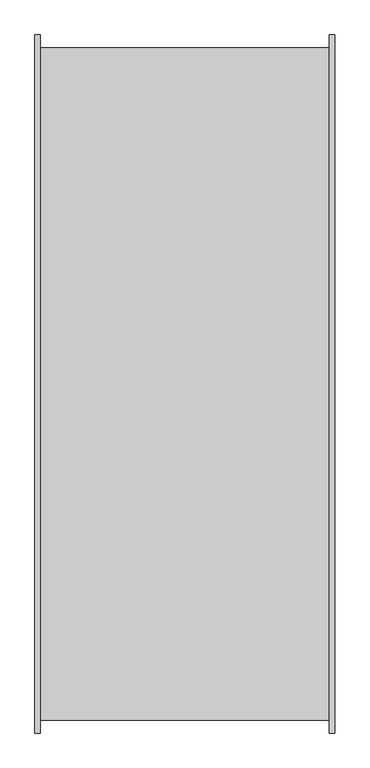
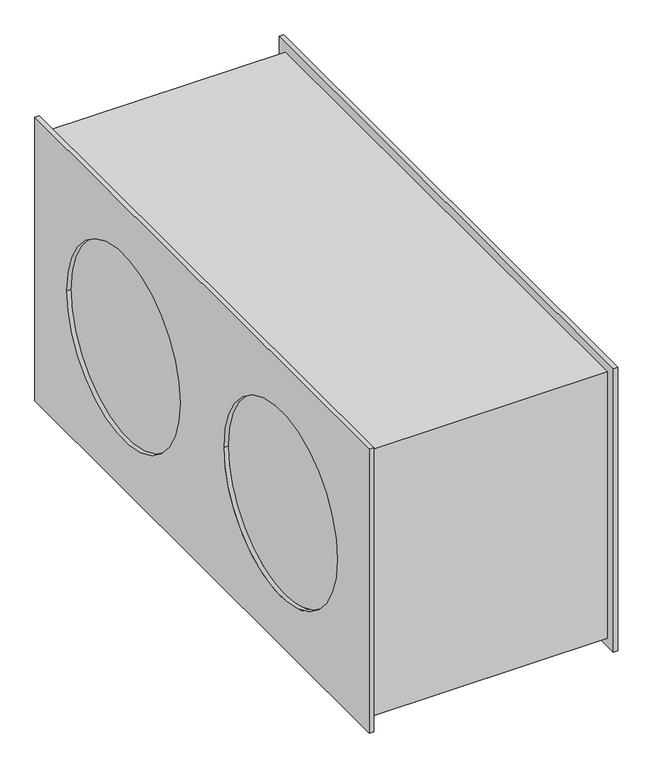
"""IFC4 building model written with IfcOpenShell, lengths in millimetres: unitary equipment geometry, VE-Wentylator-ParaForma-Harmann-JETTEC_REC-Nawiewny : 100/50/9900S."""

from ifc_helpers import new_model, si_unit, frame, origin, place, context, project, spatial, polyline, circle_curve, source, transform, mapped, element, save
from ifc_brep_helpers import plane_surface, revolved_surface, advanced_brep


def unitary_equipment_ff66f28f(model_context):
    return source(origin(), model_context, "Body", "AdvancedBrep", [
        advanced_brep(
        [(215.0, -519.3, -269.0), (215.0, -519.3, 269.0), (215.0, 519.3, 269.0), (215.0, 519.3, -269.0), (215.0, -500.0, 251.0), (215.0, -500.0, -254.3), (215.0, 500.0, -254.3), (215.0, 500.0, 251.0), (223.0, -519.3, -269.0), (223.0, 519.3, -269.0), (223.0, 519.3, 269.0), (223.0, -519.3, 269.0), (223.0, -420.3, 0.0), (223.0, -68.3, 0.0), (223.0, 68.3, 0.0), (223.0, 420.3, 0.0), (215.0, -68.3, 0.0), (215.0, -420.3, 0.0), (215.0, 420.3, 0.0), (215.0, 68.3, 0.0), (-215.0, -420.3, 0.0), (-215.0, -68.3, 0.0), (-215.0, 68.3, 0.0), (-215.0, 420.3, 0.0), (-215.0, -500.0, -254.3), (-215.0, -500.0, 251.0), (-215.0, 500.0, 251.0), (-215.0, 500.0, -254.3), (-223.0, -519.3, -269.0), (-223.0, -519.3, 269.0), (-223.0, 519.3, 269.0), (-223.0, 519.3, -269.0), (-223.0, -68.3, 0.0), (-223.0, -420.3, 0.0), (-223.0, 420.3, 0.0), (-223.0, 68.3, 0.0), (-215.0, -519.3, -269.0), (-215.0, 519.3, -269.0), (-215.0, 519.3, 269.0), (-215.0, -519.3, 269.0)],
        [
            (0, 1),
            (1, 2),
            (2, 3),
            (3, 0),
            (4, 5),
            (5, 6),
            (6, 7),
            (7, 4),
            (8, 9),
            (9, 10),
            (10, 11),
            (11, 8),
            (12, 13, circle_curve(frame((223.0, -244.3, 0.0), z_axis=(-1.0, 0.0, 0.0), x_axis=(0.0, 1.0, 0.0)), 176.0)),
            (13, 12, circle_curve(frame((223.0, -244.3, 0.0), z_axis=(-1.0, 0.0, 0.0), x_axis=(0.0, 1.0, 0.0)), 176.0)),
            (14, 15, circle_curve(frame((223.0, 244.3, 0.0), z_axis=(-1.0, 0.0, 0.0), x_axis=(0.0, 1.0, 0.0)), 176.0)),
            (15, 14, circle_curve(frame((223.0, 244.3, 0.0), z_axis=(-1.0, 0.0, 0.0), x_axis=(0.0, 1.0, 0.0)), 176.0)),
            (0, 8),
            (11, 1),
            (10, 2),
            (9, 3),
            (16, 13),
            (12, 17),
            (17, 16, circle_curve(frame((215.0, -244.3, 0.0), z_axis=(-1.0, 0.0, 0.0), x_axis=(0.0, 1.0, 0.0)), 176.0)),
            (16, 17, circle_curve(frame((215.0, -244.3, 0.0), z_axis=(-1.0, 0.0, 0.0), x_axis=(0.0, 1.0, 0.0)), 176.0)),
            (18, 15),
            (14, 19),
            (19, 18, circle_curve(frame((215.0, 244.3, 0.0), z_axis=(-1.0, 0.0, 0.0), x_axis=(0.0, 1.0, 0.0)), 176.0)),
            (18, 19, circle_curve(frame((215.0, 244.3, 0.0), z_axis=(-1.0, 0.0, 0.0), x_axis=(0.0, 1.0, 0.0)), 176.0)),
            (20, 21, circle_curve(frame((-215.0, -244.3, 0.0), z_axis=(-1.0, 0.0, 0.0), x_axis=(0.0, 1.0, 0.0)), 176.0)),
            (21, 20, circle_curve(frame((-215.0, -244.3, 0.0), z_axis=(-1.0, 0.0, 0.0), x_axis=(0.0, 1.0, 0.0)), 176.0)),
            (22, 23, circle_curve(frame((-215.0, 244.3, 0.0), z_axis=(-1.0, 0.0, 0.0), x_axis=(0.0, 1.0, 0.0)), 176.0)),
            (23, 22, circle_curve(frame((-215.0, 244.3, 0.0), z_axis=(-1.0, 0.0, 0.0), x_axis=(0.0, 1.0, 0.0)), 176.0)),
            (24, 5),
            (4, 25),
            (25, 24),
            (7, 26),
            (26, 25),
            (6, 27),
            (27, 26),
            (24, 27),
            (28, 29),
            (29, 30),
            (30, 31),
            (31, 28),
            (32, 33, circle_curve(frame((-223.0, -244.3, 0.0), z_axis=(1.0, 0.0, 0.0), x_axis=(0.0, 1.0, 0.0)), 176.0)),
            (33, 32, circle_curve(frame((-223.0, -244.3, 0.0), z_axis=(1.0, 0.0, 0.0), x_axis=(0.0, 1.0, 0.0)), 176.0)),
            (34, 35, circle_curve(frame((-223.0, 244.3, 0.0), z_axis=(1.0, 0.0, 0.0), x_axis=(0.0, 1.0, 0.0)), 176.0)),
            (35, 34, circle_curve(frame((-223.0, 244.3, 0.0), z_axis=(1.0, 0.0, 0.0), x_axis=(0.0, 1.0, 0.0)), 176.0)),
            (36, 37),
            (37, 38),
            (38, 39),
            (39, 36),
            (28, 36),
            (39, 29),
            (38, 30),
            (37, 31),
            (32, 21),
            (20, 33),
            (34, 23),
            (22, 35),
        ],
        [
            plane_surface(frame((215.0, 0.0, 0.0), z_axis=(-1.0, 0.0, 0.0), x_axis=(0.0, 0.0, 1.0))),
            plane_surface(frame((223.0, 0.0, 0.0), z_axis=(1.0, 0.0, 0.0), x_axis=(0.0, 0.0, 1.0))),
            plane_surface(frame((215.0, -519.3, -269.0), z_axis=(0.0, -1.0, 0.0), x_axis=(1.0, 0.0, 0.0))),
            plane_surface(frame((215.0, -519.3, 269.0), z_axis=(0.0, 0.0, 1.0), x_axis=(1.0, 0.0, 0.0))),
            plane_surface(frame((215.0, 519.3, 269.0), z_axis=(0.0, 1.0, 0.0), x_axis=(1.0, 0.0, 0.0))),
            plane_surface(frame((215.0, 519.3, -269.0), z_axis=(0.0, 0.0, -1.0), x_axis=(1.0, 0.0, 0.0))),
            revolved_surface(polyline([(215.0, -68.30000000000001, 0.0), (223.0, -68.30000000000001, 0.0)]), (215.0, -244.3, 0.0), (-1.0, 0.0, 0.0)),
            revolved_surface(polyline([(215.0, 420.3, 0.0), (223.0, 420.3, 0.0)]), (215.0, 244.3, 0.0), (-1.0, 0.0, 0.0)),
            plane_surface(frame((-215.0, 0.0, 0.0), z_axis=(-1.0, 0.0, 0.0), x_axis=(0.0, 0.0, 1.0))),
            plane_surface(frame((215.0, 0.0, 0.0), z_axis=(1.0, 0.0, 0.0), x_axis=(0.0, 0.0, 1.0))),
            plane_surface(frame((-215.0, -500.0, -254.3), z_axis=(0.0, -1.0, 0.0), x_axis=(1.0, 0.0, 0.0))),
            plane_surface(frame((-215.0, -500.0, 251.0), z_axis=(0.0, 0.0, 1.0), x_axis=(1.0, 0.0, 0.0))),
            plane_surface(frame((-215.0, 500.0, 251.0), z_axis=(0.0, 1.0, 0.0), x_axis=(1.0, 0.0, 0.0))),
            plane_surface(frame((-215.0, 500.0, -254.3), z_axis=(0.0, 0.0, -1.0), x_axis=(1.0, 0.0, 0.0))),
            plane_surface(frame((-223.0, 0.0, 0.0), z_axis=(-1.0, 0.0, 0.0), x_axis=(0.0, 0.0, 1.0))),
            plane_surface(frame((-215.0, 0.0, 0.0), z_axis=(1.0, 0.0, 0.0), x_axis=(0.0, 0.0, 1.0))),
            plane_surface(frame((-223.0, -519.3, -269.0), z_axis=(0.0, -1.0, 0.0), x_axis=(1.0, 0.0, 0.0))),
            plane_surface(frame((-223.0, -519.3, 269.0), z_axis=(0.0, 0.0, 1.0), x_axis=(1.0, 0.0, 0.0))),
            plane_surface(frame((-223.0, 519.3, 269.0), z_axis=(0.0, 1.0, 0.0), x_axis=(1.0, 0.0, 0.0))),
            plane_surface(frame((-223.0, 519.3, -269.0), z_axis=(0.0, 0.0, -1.0), x_axis=(1.0, 0.0, 0.0))),
            revolved_surface(polyline([(-223.0, -68.30000000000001, 0.0), (-215.0, -68.30000000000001, 0.0)]), (-223.0, -244.3, 0.0), (-1.0, 0.0, 0.0)),
            revolved_surface(polyline([(-223.0, 420.3, 0.0), (-215.0, 420.3, 0.0)]), (-223.0, 244.3, 0.0), (-1.0, 0.0, 0.0)),
        ],
        [
            (0, [[1, 2, 3, 4], [5, 6, 7, 8]]),
            (1, [[9, 10, 11, 12], [13, 14], [15, 16]]),
            (2, [[-1, 17, -12, 18]]),
            (3, [[-2, -18, -11, 19]]),
            (4, [[-3, -19, -10, 20]]),
            (5, [[-4, -20, -9, -17]]),
            (6, [[21, -13, 22, 23]]),
            (6, [[-21, 24, -22, -14]]),
            (7, [[25, -15, 26, 27]]),
            (7, [[-25, 28, -26, -16]]),
            (8, [[29, 30]]),
            (8, [[31, 32]]),
            (9, [[-23, -24]]),
            (9, [[-27, -28]]),
            (10, [[33, -5, 34, 35]]),
            (11, [[-34, -8, 36, 37]]),
            (12, [[-36, -7, 38, 39]]),
            (13, [[-33, 40, -38, -6]]),
            (14, [[41, 42, 43, 44], [45, 46], [47, 48]]),
            (15, [[49, 50, 51, 52], [-35, -37, -39, -40]]),
            (16, [[-41, 53, -52, 54]]),
            (17, [[-42, -54, -51, 55]]),
            (18, [[-43, -55, -50, 56]]),
            (19, [[-44, -56, -49, -53]]),
            (20, [[57, -29, 58, -45]]),
            (20, [[-57, -46, -58, -30]]),
            (21, [[59, -31, 60, -47]]),
            (21, [[-59, -48, -60, -32]]),
        ],
    ),
    ])


if __name__ == "__main__":
    model = new_model("IFC4")
    model_context = context("Model", 3, world=origin())
    ifc_project = project(units=[si_unit("LENGTHUNIT", "METRE", prefix="MILLI")], contexts=[model_context])
    site = spatial("IfcSite", under=ifc_project)
    building = spatial("IfcBuilding", under=site)
    placement = place(None, origin())
    unitary_equipment_shape = unitary_equipment_ff66f28f(model_context)
    element("IfcUnitaryEquipment", 1, ObjectType="VE-Wentylator-ParaForma-Harmann-JETTEC_REC-Nawiewny : 100/50/9900S", at=placement, inside=building, context=model_context, shape_type="MappedRepresentation", body=[
        mapped(unitary_equipment_shape, transform((0.0, 0.0, 0.0), x_axis=(1.0, 0.0, 0.0), y_axis=(0.0, 1.0, 0.0), z_axis=(0.0, 0.0, 1.0))),
    ])
    save(model, "model.ifc")
